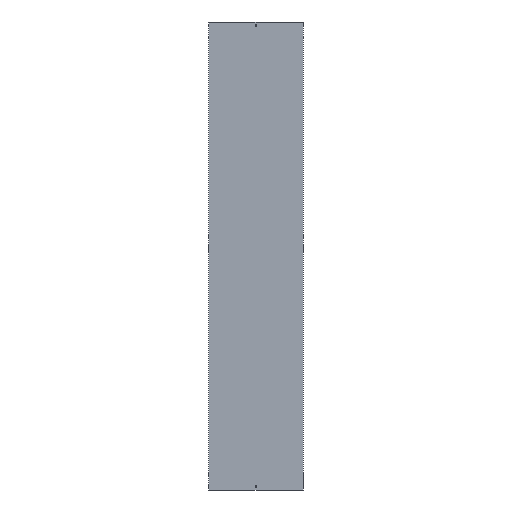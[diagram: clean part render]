
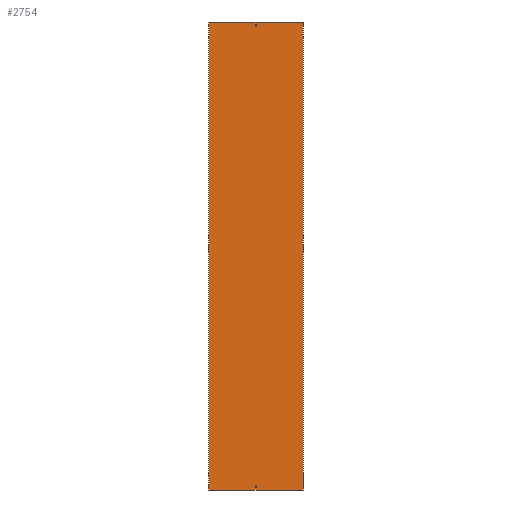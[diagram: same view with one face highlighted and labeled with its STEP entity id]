
A CAD part, front view. The second image highlights one B-rep face of the part: STEP entity #2754.
In plain terms, the highlighted planar face has unit normal (0, -1, 0).
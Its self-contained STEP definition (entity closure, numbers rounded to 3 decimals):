
#9 = VECTOR ( 'NONE', #1866, 1000. ) ;
#17 = VECTOR ( 'NONE', #744, 1000. ) ;
#50 = VERTEX_POINT ( 'NONE', #681 ) ;
#55 = PLANE ( 'NONE',  #377 ) ;
#62 = ORIENTED_EDGE ( 'NONE', *, *, #509, .T. ) ;
#65 = VERTEX_POINT ( 'NONE', #2243 ) ;
#85 = EDGE_CURVE ( 'NONE', #65, #1649, #1594, .T. ) ;
#108 = ORIENTED_EDGE ( 'NONE', *, *, #112, .F. ) ;
#112 = EDGE_CURVE ( 'NONE', #1620, #1649, #1182, .T. ) ;
#170 = EDGE_LOOP ( 'NONE', ( #2634, #108, #968, #865 ) ) ;
#191 = VECTOR ( 'NONE', #737, 1000. ) ;
#201 = EDGE_CURVE ( 'NONE', #2055, #819, #2088, .T. ) ;
#273 = VECTOR ( 'NONE', #2255, 1000. ) ;
#335 = DIRECTION ( 'NONE',  ( 1., 0., 0. ) ) ;
#364 = LINE ( 'NONE', #1259, #9 ) ;
#377 = AXIS2_PLACEMENT_3D ( 'NONE', #1383, #1969, #2481 ) ;
#446 = CARTESIAN_POINT ( 'NONE',  ( -3.25, 0., -988. ) ) ;
#470 = CARTESIAN_POINT ( 'NONE',  ( 3.25, 0., -988. ) ) ;
#509 = EDGE_CURVE ( 'NONE', #2678, #2186, #972, .T. ) ;
#540 = CARTESIAN_POINT ( 'NONE',  ( 202., 0., 1000. ) ) ;
#542 = LINE ( 'NONE', #2228, #191 ) ;
#572 = FACE_OUTER_BOUND ( 'NONE', #170, .T. ) ;
#589 = EDGE_CURVE ( 'NONE', #819, #50, #1912, .T. ) ;
#600 = CARTESIAN_POINT ( 'NONE',  ( 202., 0., -1000. ) ) ;
#602 = VERTEX_POINT ( 'NONE', #2072 ) ;
#679 = DIRECTION ( 'NONE',  ( 0., 0., 1. ) ) ;
#681 = CARTESIAN_POINT ( 'NONE',  ( -3.25, 0., 979. ) ) ;
#732 = ORIENTED_EDGE ( 'NONE', *, *, #1767, .T. ) ;
#737 = DIRECTION ( 'NONE',  ( 1., 0., 0. ) ) ;
#744 = DIRECTION ( 'NONE',  ( 0., 0., -1. ) ) ;
#793 = LINE ( 'NONE', #2081, #1562 ) ;
#819 = VERTEX_POINT ( 'NONE', #1591 ) ;
#821 = DIRECTION ( 'NONE',  ( 0., 0., -1. ) ) ;
#865 = ORIENTED_EDGE ( 'NONE', *, *, #2434, .T. ) ;
#887 = LINE ( 'NONE', #446, #1305 ) ;
#908 = ORIENTED_EDGE ( 'NONE', *, *, #201, .F. ) ;
#933 = ORIENTED_EDGE ( 'NONE', *, *, #1942, .F. ) ;
#945 = DIRECTION ( 'NONE',  ( 1., 0., 0. ) ) ;
#956 = LINE ( 'NONE', #1807, #17 ) ;
#963 = CARTESIAN_POINT ( 'NONE',  ( 202., 0., 1000. ) ) ;
#968 = ORIENTED_EDGE ( 'NONE', *, *, #1571, .F. ) ;
#972 = LINE ( 'NONE', #2030, #273 ) ;
#1053 = CARTESIAN_POINT ( 'NONE',  ( -3.25, 0., -988. ) ) ;
#1086 = VECTOR ( 'NONE', #335, 1000. ) ;
#1151 = LINE ( 'NONE', #1823, #1752 ) ;
#1182 = LINE ( 'NONE', #540, #2145 ) ;
#1241 = ORIENTED_EDGE ( 'NONE', *, *, #2003, .T. ) ;
#1258 = DIRECTION ( 'NONE',  ( -1., 0., 0. ) ) ;
#1259 = CARTESIAN_POINT ( 'NONE',  ( 3.25, 0., 988. ) ) ;
#1268 = EDGE_CURVE ( 'NONE', #1533, #2678, #793, .T. ) ;
#1281 = VERTEX_POINT ( 'NONE', #2275 ) ;
#1305 = VECTOR ( 'NONE', #679, 1000. ) ;
#1357 = DIRECTION ( 'NONE',  ( 0., 0., -1. ) ) ;
#1369 = CARTESIAN_POINT ( 'NONE',  ( -202., 0., -1000. ) ) ;
#1383 = CARTESIAN_POINT ( 'NONE',  ( -202., 0., 1000. ) ) ;
#1422 = CARTESIAN_POINT ( 'NONE',  ( 3.25, 0., 988. ) ) ;
#1469 = VECTOR ( 'NONE', #1714, 1000. ) ;
#1533 = VERTEX_POINT ( 'NONE', #1611 ) ;
#1544 = FACE_BOUND ( 'NONE', #2554, .T. ) ;
#1562 = VECTOR ( 'NONE', #821, 1000. ) ;
#1571 = EDGE_CURVE ( 'NONE', #2313, #1620, #542, .T. ) ;
#1591 = CARTESIAN_POINT ( 'NONE',  ( -3.25, 0., 988. ) ) ;
#1594 = LINE ( 'NONE', #1369, #2412 ) ;
#1611 = CARTESIAN_POINT ( 'NONE',  ( 3.25, 0., -979. ) ) ;
#1620 = VERTEX_POINT ( 'NONE', #963 ) ;
#1633 = EDGE_CURVE ( 'NONE', #602, #2055, #364, .T. ) ;
#1649 = VERTEX_POINT ( 'NONE', #600 ) ;
#1714 = DIRECTION ( 'NONE',  ( 0., 0., -1. ) ) ;
#1752 = VECTOR ( 'NONE', #2437, 1000. ) ;
#1767 = EDGE_CURVE ( 'NONE', #2186, #1281, #887, .T. ) ;
#1782 = EDGE_LOOP ( 'NONE', ( #933, #2085, #908, #2132 ) ) ;
#1807 = CARTESIAN_POINT ( 'NONE',  ( -202., 0., 1000. ) ) ;
#1823 = CARTESIAN_POINT ( 'NONE',  ( -3.25, 0., 979. ) ) ;
#1866 = DIRECTION ( 'NONE',  ( 0., 0., 1. ) ) ;
#1912 = LINE ( 'NONE', #2373, #1469 ) ;
#1942 = EDGE_CURVE ( 'NONE', #50, #602, #1151, .T. ) ;
#1969 = DIRECTION ( 'NONE',  ( 0., 1., 0. ) ) ;
#2003 = EDGE_CURVE ( 'NONE', #1281, #1533, #2618, .T. ) ;
#2030 = CARTESIAN_POINT ( 'NONE',  ( -3.25, 0., -988. ) ) ;
#2055 = VERTEX_POINT ( 'NONE', #1422 ) ;
#2072 = CARTESIAN_POINT ( 'NONE',  ( 3.25, 0., 979. ) ) ;
#2081 = CARTESIAN_POINT ( 'NONE',  ( 3.25, 0., -988. ) ) ;
#2085 = ORIENTED_EDGE ( 'NONE', *, *, #589, .F. ) ;
#2088 = LINE ( 'NONE', #2322, #2636 ) ;
#2132 = ORIENTED_EDGE ( 'NONE', *, *, #1633, .F. ) ;
#2145 = VECTOR ( 'NONE', #1357, 1000. ) ;
#2186 = VERTEX_POINT ( 'NONE', #1053 ) ;
#2228 = CARTESIAN_POINT ( 'NONE',  ( -202., 0., 1000. ) ) ;
#2240 = CARTESIAN_POINT ( 'NONE',  ( -3.25, 0., -979. ) ) ;
#2243 = CARTESIAN_POINT ( 'NONE',  ( -202., 0., -1000. ) ) ;
#2255 = DIRECTION ( 'NONE',  ( -1., 0., 0. ) ) ;
#2275 = CARTESIAN_POINT ( 'NONE',  ( -3.25, 0., -979. ) ) ;
#2313 = VERTEX_POINT ( 'NONE', #2418 ) ;
#2322 = CARTESIAN_POINT ( 'NONE',  ( -3.25, 0., 988. ) ) ;
#2373 = CARTESIAN_POINT ( 'NONE',  ( -3.25, 0., 988. ) ) ;
#2412 = VECTOR ( 'NONE', #945, 1000. ) ;
#2418 = CARTESIAN_POINT ( 'NONE',  ( -202., 0., 1000. ) ) ;
#2434 = EDGE_CURVE ( 'NONE', #2313, #65, #956, .T. ) ;
#2437 = DIRECTION ( 'NONE',  ( 1., 0., 0. ) ) ;
#2481 = DIRECTION ( 'NONE',  ( -1., 0., 0. ) ) ;
#2535 = ORIENTED_EDGE ( 'NONE', *, *, #1268, .T. ) ;
#2554 = EDGE_LOOP ( 'NONE', ( #732, #1241, #2535, #62 ) ) ;
#2618 = LINE ( 'NONE', #2240, #1086 ) ;
#2634 = ORIENTED_EDGE ( 'NONE', *, *, #85, .T. ) ;
#2636 = VECTOR ( 'NONE', #1258, 1000. ) ;
#2676 = FACE_BOUND ( 'NONE', #1782, .T. ) ;
#2678 = VERTEX_POINT ( 'NONE', #470 ) ;
#2754 = ADVANCED_FACE ( 'NONE', ( #572, #2676, #1544 ), #55, .F. ) ;
